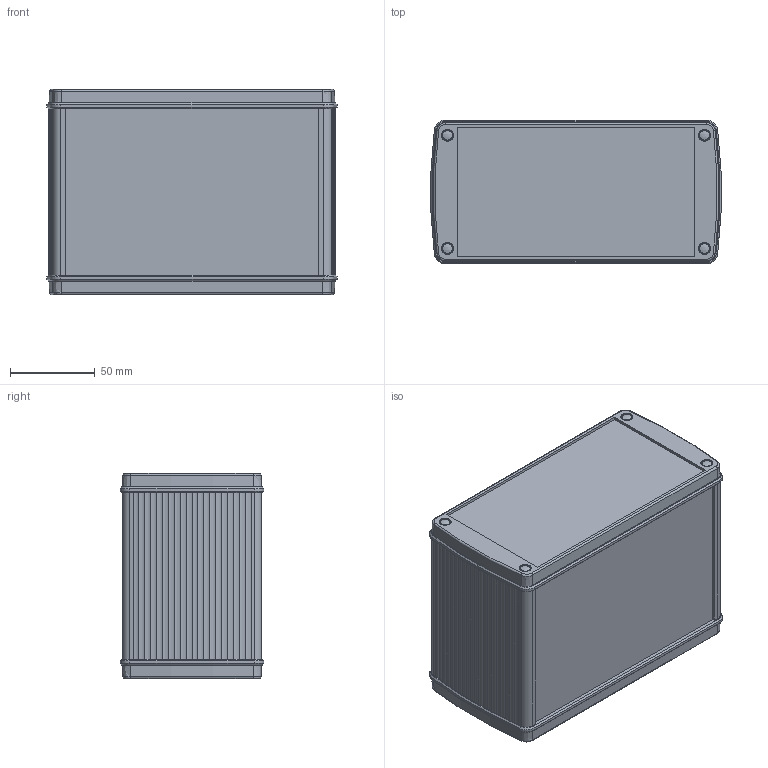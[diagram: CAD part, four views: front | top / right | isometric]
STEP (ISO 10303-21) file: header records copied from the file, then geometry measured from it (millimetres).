
FILE_DESCRIPTION(/* description */ (''),/* implementation_level */ '2;1');
FILE_NAME(/* name */ '\\storage2\Abteilungen\Konstruktion\Abteilung\User\Daten\Internetdaten-Entwicklung\Handelsmarketing\Zusammenbauzeichnungen_Conrad\Alubos\STEP\84686100.H_ABPH 1680-100.stp',/* time_stamp */ '2016-05-30T11:43:15+02:00',/* author */ ('arempel'),/* organization */ (''),/* preprocessor_version */ 'ST-DEVELOPER v16.1',/* originating_system */ 'Autodesk Inventor 2016',/* authorisation */ '');
FILE_SCHEMA (('AUTOMOTIVE_DESIGN { 1 0 10303 214 3 1 1 }'));
Length unit declared in the file: millimetre
Products named in the file (4): ABPH 1680 UT_1008071_3DSYM; ABPH 1680 OT_1008076_3DSYM; 84168100_ABD 1680; 84686100.H_ABPH 1680-100
Assembly tree (4 placements, depth 2):
  84686100.H_ABPH 1680-100
    ABPH 1680 UT_1008071_3DSYM
    ABPH 1680 OT_1008076_3DSYM
    84168100_ABD 1680  x2
Bounding box: 171.1 x 84.6 x 121.1 mm (x, y, z)
Volume: 322310 mm3; surface area: 236951.8 mm2
Topology: 22 solids, 22 shells, 2372 faces, 6086 edges, 3836 vertices
Faces by surface type: plane 1152, cylinder 744, bspline 140, sphere 136, cone 128, torus 72
Full cylindrical faces by diameter (mm): 3 x8, 3.4 x8, 4.6 x4, 5.3 x8, 5.6 x8, 6 x8, 6.4 x8, 7 x8
Entity records: 48056 total; most frequent: CARTESIAN_POINT 11506, ORIENTED_EDGE 7576, DIRECTION 7486, EDGE_CURVE 3788, LINE 2590, VECTOR 2590, VERTEX_POINT 2484, AXIS2_PLACEMENT_3D 2448
